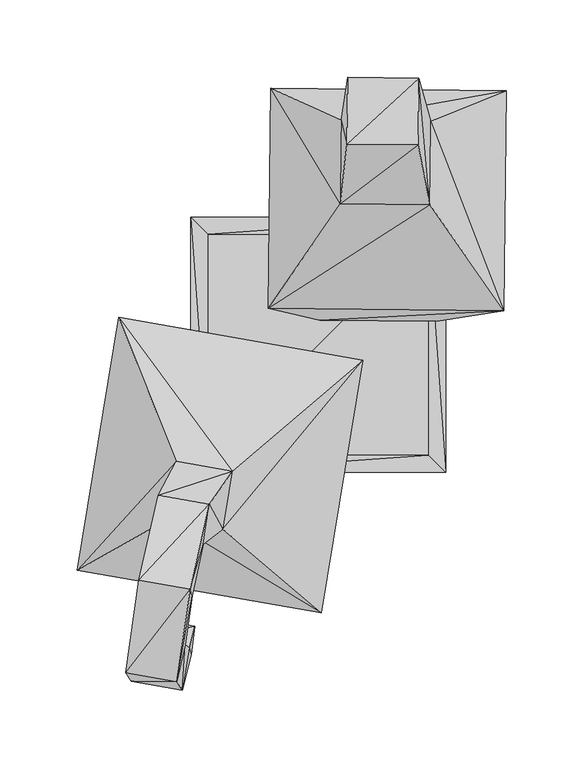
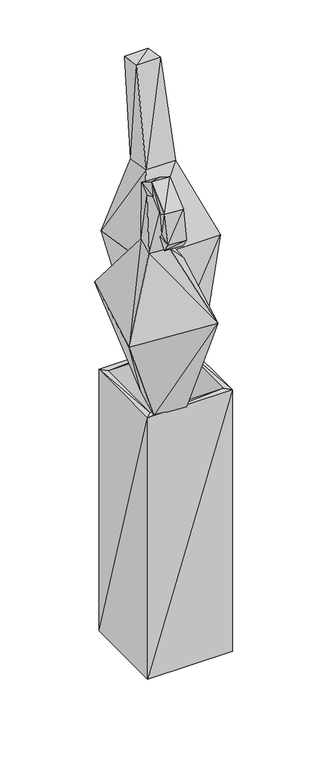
"""IFC4 building model written with IfcOpenShell, lengths in millimetres: geographic element geometry, Enscape AssetDefinition - Umbrella Holder : Enscape AssetDefinition - Umbrella Holder."""

from ifc_helpers import new_model, si_unit, origin, place, context, project, spatial, faceted_brep, source, transform, mapped, element, save


def geographic_element_efaf2cf7(model_context):
    return source(origin(), model_context, "Body", "Brep", [
        faceted_brep([(18.9869478, 172.3393649, 1092.0900106), (18.4599701, 129.3664575, 1099.5241404), (65.0003105, 171.8574315, 1092.5658941), (14.9329081, 144.6344852, 899.666965), (14.2741706, 90.9169838, 908.9598656), (64.473331, 128.8845092, 1100.0000238), (71.792312, 90.3145298, 909.5546007), (72.451055, 144.0320462, 900.2617002), (121.4429513, 163.9399976, 755.8919191), (-30.6357052, 165.532887, 754.3193102), (119.7012365, 21.9103191, 780.4625034), (-32.3774181, 23.5032085, 778.8898945), (77.279605, 85.4786113, 529.4613242), (1.8052965, 86.2691328, 528.6808014), (76.4152184, 14.9914492, 541.6551828), (0.9409095, 15.7819726, 540.8747792)], [[[0, 1, 2]], [[3, 4, 1]], [[2, 1, 5]], [[4, 5, 1]], [[3, 1, 0]], [[6, 7, 2]], [[6, 2, 5]], [[7, 0, 2]], [[7, 3, 0]], [[7, 8, 3]], [[3, 9, 4]], [[3, 8, 9]], [[6, 10, 7]], [[7, 10, 8]], [[4, 6, 5]], [[4, 11, 6]], [[6, 11, 10]], [[4, 9, 11]], [[12, 13, 9]], [[12, 9, 8]], [[13, 11, 9]], [[14, 12, 8]], [[14, 8, 10]], [[15, 14, 10]], [[15, 10, 11]], [[13, 15, 11]], [[14, 15, 13]], [[14, 13, 12]]]),
        faceted_brep([(-61.6396517, -119.2541197, 902.1067023), (1.9174838, -173.0815917, 758.4103942), (28.6786333, -9.9906903, 784.1386199), (-97.7809876, -112.9178405, 899.533391), (-155.4102451, -145.4989463, 747.2085357), (-67.978926, -78.02587, 534.4576836), (-10.3286309, -88.1330967, 538.562417), (-91.6333944, -75.4526183, 905.4436684), (-128.6491007, 17.5919384, 772.9367018), (-58.1727214, -18.2637796, 543.8853502), (-107.1677059, -122.9766682, 1029.3693542), (-74.1567537, -128.7641227, 1031.7198038), (-55.4920733, -81.7888975, 908.0170393), (-103.3820212, -97.390309, 1039.2023325), (-114.3951938, -156.2217623, 1049.0176678), (-81.3842416, -162.0092392, 1051.3681173), (-82.7140883, -157.8528136, 1080.2801847), (-70.3710616, -103.177771, 1041.5525436), (-85.7537612, -193.6804354, 1034.7524881), (-91.2056714, -217.6260352, 1052.3611307), (-115.7250255, -152.0652771, 1077.929616), (-118.7647283, -187.8929585, 1032.4020386), (-83.2337216, -195.7350522, 994.2999482), (-87.7941921, -223.138079, 990.8753633), (-124.2166385, -211.8385583, 1050.0108004), (-120.8051518, -217.3506021, 988.5250926), (-81.8196461, -200.2990693, 963.2015228), (-114.830628, -194.5115775, 960.8509541), (-116.2446961, -189.9475604, 991.9494987), (-79.7873959, -181.6860437, 980.4901481), (-112.7983481, -175.8985966, 978.1397581), (-0.5224181, -28.3710044, 547.9901433)], [[[0, 1, 2]], [[3, 4, 1]], [[5, 6, 1]], [[3, 1, 0]], [[6, 2, 1]], [[5, 1, 4]], [[7, 8, 4]], [[9, 5, 4]], [[7, 4, 3]], [[9, 4, 8]], [[7, 3, 10]], [[3, 0, 11]], [[3, 11, 10]], [[12, 7, 13]], [[12, 8, 7]], [[7, 10, 13]], [[14, 10, 15]], [[14, 13, 10]], [[15, 10, 11]], [[15, 11, 16]], [[0, 17, 11]], [[16, 11, 17]], [[18, 15, 19]], [[19, 15, 16]], [[18, 14, 15]], [[20, 13, 14]], [[21, 14, 18]], [[21, 20, 14]], [[22, 18, 23]], [[23, 18, 19]], [[22, 21, 18]], [[19, 16, 24]], [[23, 19, 25]], [[25, 19, 24]], [[26, 23, 27]], [[26, 22, 23]], [[27, 23, 25]], [[28, 21, 22]], [[29, 22, 26]], [[29, 28, 22]], [[29, 26, 27]], [[27, 25, 30]], [[29, 27, 30]], [[25, 24, 28]], [[30, 25, 28]], [[30, 28, 29]], [[28, 24, 21]], [[24, 20, 21]], [[24, 16, 20]], [[16, 17, 20]], [[0, 12, 17]], [[12, 13, 17]], [[20, 17, 13]], [[12, 2, 8]], [[0, 2, 12]], [[6, 31, 2]], [[31, 8, 2]], [[31, 9, 8]], [[31, 6, 9]], [[9, 6, 5]]]),
        faceted_brep([(82.3364109, -82.336396, -5.2e-06), (-82.3364034, -82.336396, -5.2e-06), (82.3364034, 82.3363885, 2.6e-06), (-82.336396, -82.3363587, 537.9312038), (82.3364109, -82.3363587, 537.9312038), (-82.3364034, 82.3363885, 0.0), (82.3364034, 82.3364332, 537.9312038), (-82.336396, 82.3364332, 537.9312038), (71.3582188, -71.3581592, 537.9312038), (71.3582188, 71.358256, 537.9312038), (-71.3582039, -71.3581741, 537.9312038), (-71.3581964, 71.358256, 537.9312038), (71.3582262, 71.3582262, 34.6705988), (-71.3582039, 71.3582262, 34.6705951), (71.3582188, -71.358189, 34.6705876), (-71.3582039, -71.358189, 34.6705876)], [[[0, 1, 2]], [[3, 1, 4]], [[2, 1, 5]], [[4, 1, 0]], [[3, 5, 1]], [[6, 2, 7]], [[6, 0, 2]], [[7, 2, 5]], [[4, 0, 6]], [[8, 4, 9]], [[8, 3, 4]], [[9, 4, 6]], [[7, 5, 3]], [[10, 3, 8]], [[10, 7, 3]], [[11, 7, 10]], [[11, 6, 7]], [[9, 6, 11]], [[12, 9, 13]], [[12, 8, 9]], [[13, 9, 11]], [[14, 8, 12]], [[14, 10, 8]], [[15, 10, 14]], [[15, 11, 10]], [[13, 11, 15]], [[15, 12, 13]], [[15, 14, 12]]]),
    ])


if __name__ == "__main__":
    model = new_model("IFC4")
    model_context = context("Model", 3, world=origin())
    ifc_project = project(units=[si_unit("LENGTHUNIT", "METRE", prefix="MILLI")], contexts=[model_context])
    site = spatial("IfcSite", under=ifc_project)
    building = spatial("IfcBuilding", under=site)
    placement = place(None, origin())
    geographic_element_shape = geographic_element_efaf2cf7(model_context)
    element("IfcGeographicElement", 1, ObjectType="Enscape AssetDefinition - Umbrella Holder : Enscape AssetDefinition - Umbrella Holder", at=placement, inside=building, context=model_context, shape_type="MappedRepresentation", body=[
        mapped(geographic_element_shape, transform((0.0, 0.0, 0.0), x_axis=(1.0, 0.0, 0.0), y_axis=(0.0, 1.0, 0.0), z_axis=(0.0, 0.0, 1.0))),
    ])
    save(model, "model.ifc")
